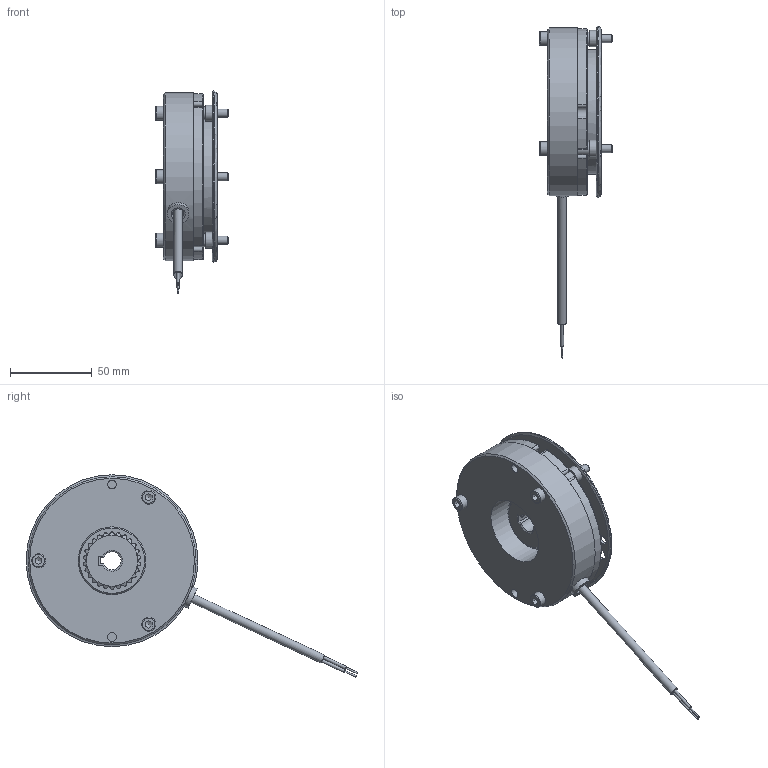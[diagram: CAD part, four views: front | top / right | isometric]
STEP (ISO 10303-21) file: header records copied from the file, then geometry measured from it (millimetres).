
FILE_DESCRIPTION(/* description */ (''),/* implementation_level */ '2;1');
FILE_NAME(/* name */ 'C:\SapWorkDir\Inventor\IP1\ConvertTempPath\5029479_IPT_000.ipt.stp',/* time_stamp */ '2021-04-21T07:08:50+02:00',/* author */ ('WOELK'),/* organization */ (''),/* preprocessor_version */ 'ST-DEVELOPER v17',/* originating_system */ 'Autodesk Inventor 2018',/* authorisation */ '');
FILE_SCHEMA (('AUTOMOTIVE_DESIGN { 1 0 10303 214 3 1 1 }'));
Length unit declared in the file: millimetre
Products named in the file (1): 5029479
Bounding box: 45 x 203.47 x 124.14 mm (x, y, z)
Volume: 221576.4 mm3; surface area: 68546.5 mm2
Topology: 1 solids, 1 shells, 575 faces, 1951 edges, 1301 vertices
Faces by surface type: cylinder 276, plane 186, bspline 53, cone 32, torus 28
Full cylindrical faces by diameter (mm): 1 x2, 1.85 x2, 5 x3, 5.15 x3, 5.3 x6, 5.5 x7, 6.6 x1, 6.7 x1, 7 x1, 7.188 x3, 8 x3, 8.4 x3, 8.5 x3, 10 x3, 13.2 x1, 40 x1, 41.5 x2, 45 x1, 76.5 x1, 103 x1
Entity records: 26564 total; most frequent: CARTESIAN_POINT 9030, ORIENTED_EDGE 3898, DIRECTION 3317, EDGE_CURVE 1949, VERTEX_POINT 1301, AXIS2_PLACEMENT_3D 1294, CIRCLE 771, LINE 729
